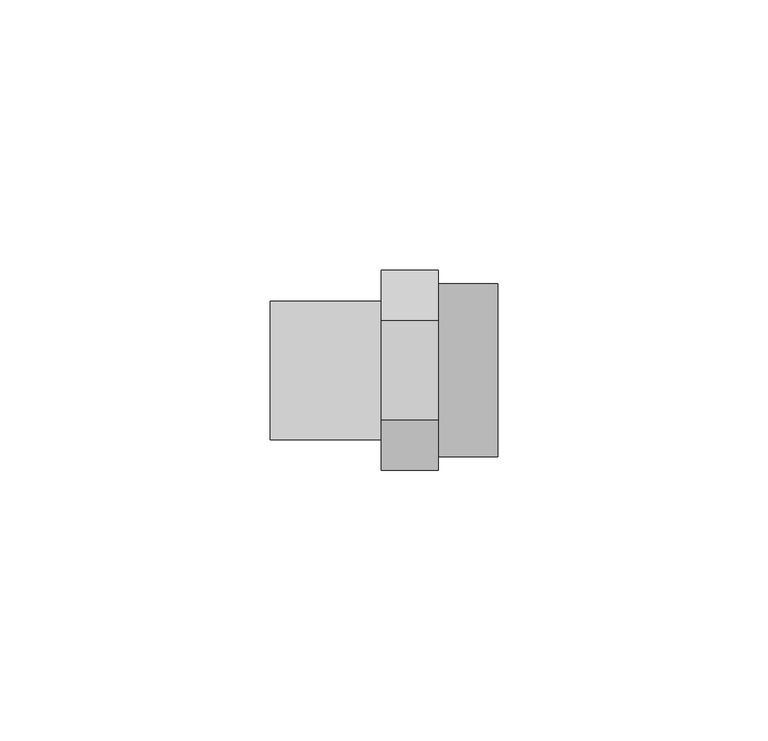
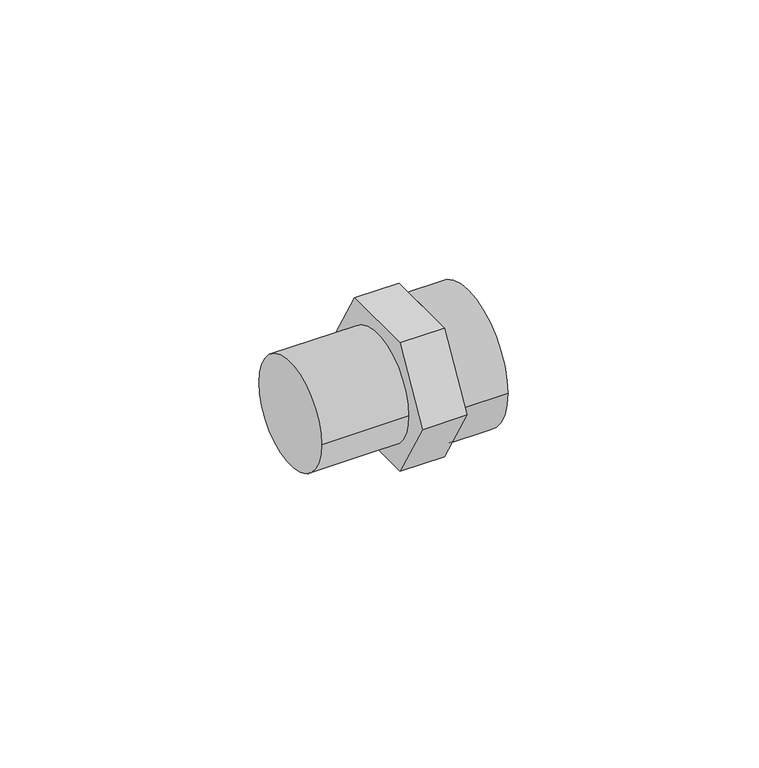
"""IFC4 building model written with IfcOpenShell, lengths in millimetres: pipe fitting geometry."""

from ifc_helpers import new_model, si_unit, point, frame, origin, origin_2d, place, context, project, spatial, polyline, circle_curve, trimmed, segment, composite_curve, outline, extrude, source, transform, mapped, element, save


def pipe_fitting_4ddfda11(model_context):
    return source(origin(), model_context, "Body", "SweptSolid", [
        extrude(outline(composite_curve([segment(trimmed(circle_curve(origin_2d(), 12.8), [point((12.8, 0.0))], [point((-12.8, 0.0))], False, "CARTESIAN"), True, "CONTINUOUS"), segment(trimmed(circle_curve(origin_2d(), 12.8), [point((-12.8, 0.0))], [point((12.8, 0.0))], False, "CARTESIAN"), True, "CONTINUOUS")], self_intersect=False)), frame((0.0, 0.0, 0.0), z_axis=(1.0, 0.0, 0.0), x_axis=(0.0, 1.0, 0.0)), (0.0, 0.0, 1.0), 20.5),
        extrude(outline(polyline([(-9.2376043, 16.0), (9.2376043, 16.0), (18.4752086, 0.0), (9.2376043, -16.0), (-9.2376043, -16.0), (-18.4752086, 0.0), (-9.2376043, 16.0)])), frame((20.5, 0.0, 0.0), z_axis=(1.0, 0.0, 0.0), x_axis=(0.0, 1.0, 0.0)), (0.0, 0.0, 1.0), 10.5),
        extrude(outline(composite_curve([segment(trimmed(circle_curve(origin_2d(), 16.0), [point((-16.0, 0.0))], [point((16.0, 0.0))], False, "CARTESIAN"), True, "CONTINUOUS"), segment(trimmed(circle_curve(origin_2d(), 16.0), [point((16.0, 0.0))], [point((-16.0, 0.0))], False, "CARTESIAN"), True, "CONTINUOUS")], self_intersect=False)), frame((31.0, 0.0, 0.0), z_axis=(1.0, 0.0, 0.0), x_axis=(0.0, 1.0, 0.0)), (0.0, 0.0, 1.0), 11.0),
    ])


if __name__ == "__main__":
    model = new_model("IFC4")
    model_context = context("Model", 3, world=origin())
    ifc_project = project(units=[si_unit("LENGTHUNIT", "METRE", prefix="MILLI")], contexts=[model_context])
    site = spatial("IfcSite", under=ifc_project)
    building = spatial("IfcBuilding", under=site)
    placement = place(None, origin())
    pipe_fitting_shape = pipe_fitting_4ddfda11(model_context)
    element("IfcPipeFitting", 1, at=placement, inside=building, context=model_context, shape_type="MappedRepresentation", body=[
        mapped(pipe_fitting_shape, transform((0.0, 0.0, 0.0), x_axis=(1.0, 0.0, 0.0), y_axis=(0.0, 1.0, 0.0), z_axis=(0.0, 0.0, 1.0))),
    ])
    save(model, "model.ifc")
